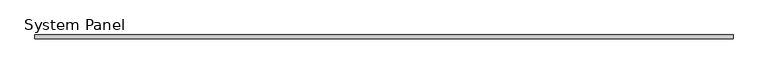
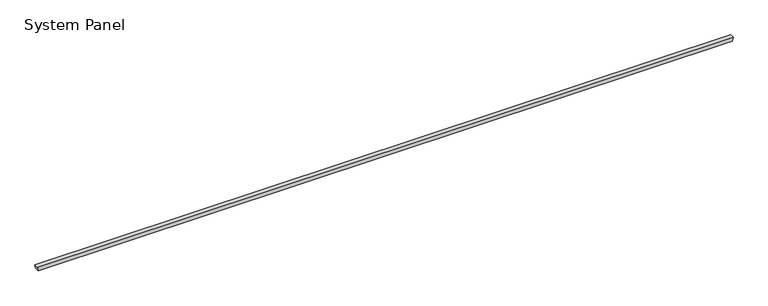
"""IFC4 building model written with IfcOpenShell, lengths in millimetres: plate geometry, System Panel : Equitilt_75mm_Plain_Surfmist."""

from ifc_helpers import new_model, si_unit, frame, origin, place, context, project, spatial, polyline, outline, extrude, source, transform, mapped, element, save


def system_panel_5dc12aba(model_context):
    return source(origin(), model_context, "Body", "SweptSolid", [
        extrude(outline(polyline([(0.0, -6782.6149856), (0.0, 6782.6149856), (79.9704237, 6800.0), (79.9704237, -6800.0), (0.0, -6782.6149856)])), frame((0.0, -75.0, 0.0), z_axis=(0.0, 1.0, 0.0), x_axis=(0.0, 0.0, 1.0)), (0.0, 0.0, 1.0), 75.0),
    ])


if __name__ == "__main__":
    model = new_model("IFC4")
    model_context = context("Model", 3, world=origin())
    ifc_project = project(units=[si_unit("LENGTHUNIT", "METRE", prefix="MILLI")], contexts=[model_context])
    site = spatial("IfcSite", under=ifc_project)
    building = spatial("IfcBuilding", under=site)
    placement = place(None, origin())
    system_panel_shape = system_panel_5dc12aba(model_context)
    element("IfcPlate", 1, ObjectType="System Panel : Equitilt_75mm_Plain_Surfmist", at=placement, inside=building, context=model_context, shape_type="MappedRepresentation", body=[
        mapped(system_panel_shape, transform((0.0, 0.0, 0.0), x_axis=(1.0, 0.0, 0.0), y_axis=(0.0, 1.0, 0.0), z_axis=(0.0, 0.0, 1.0))),
    ])
    save(model, "model.ifc")
